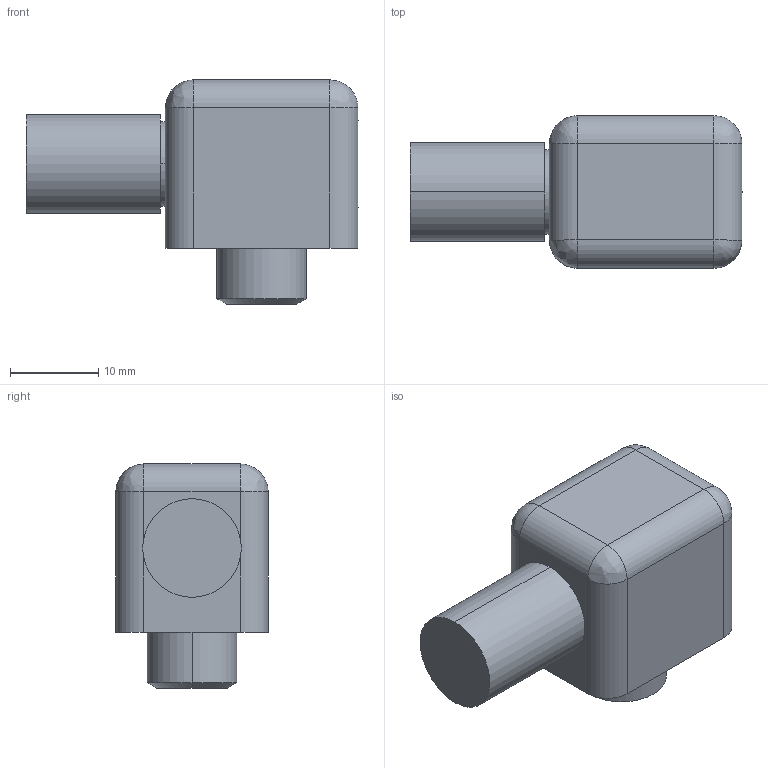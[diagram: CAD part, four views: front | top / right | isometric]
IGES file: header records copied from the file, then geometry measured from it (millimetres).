
Start section: SolidWorks IGES file using analytic representation for surfaces
Global section: file name: S:\Product Visuals\FILES FOR PUBLICATION\SOLID MODELS FOR PUBLICATION\60-shuttle\igs\stroke-detection\sp-pressure-switch-fitting-2.IGS; native system: SolidWorks 2012; preprocessor: SolidWorks 2012; author: rachel.dressel; date: 121205.161643; units: inch
Bounding box: 37.64 x 17.27 x 25.4 mm (x, y, z)
Volume: 8083.7 mm3; surface area: 3265.5 mm2
Topology: 1 solids, 1 shells, 36 faces, 78 edges, 44 vertices
Faces by surface type: revolution 22, plane 10, bspline 4
